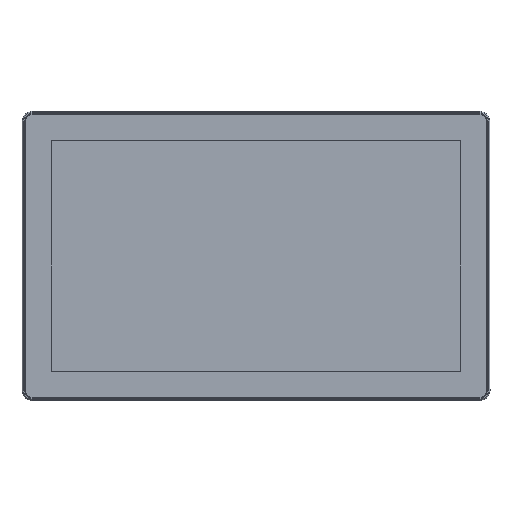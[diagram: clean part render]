
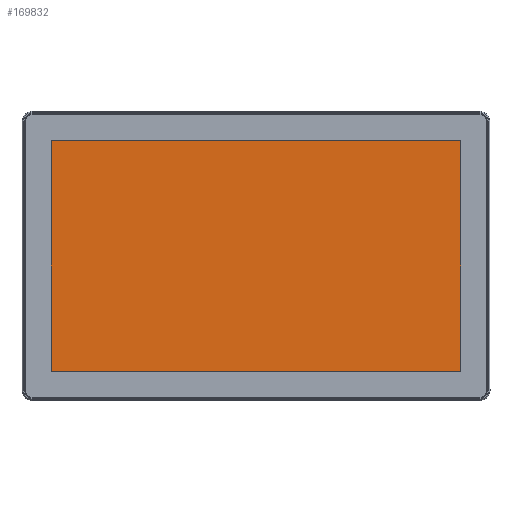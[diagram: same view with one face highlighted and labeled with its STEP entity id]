
A CAD part, top view. The second image highlights one B-rep face of the part: STEP entity #169832.
In plain terms, the highlighted planar face has unit normal (0, 0, 1).
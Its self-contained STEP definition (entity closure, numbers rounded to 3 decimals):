
#5460=PLANE('',#179848);
#18239=LINE('',#280441,#34975);
#18243=LINE('',#280449,#34979);
#18246=LINE('',#280455,#34982);
#18249=LINE('',#280460,#34985);
#34975=VECTOR('',#210083,10.);
#34979=VECTOR('',#210089,10.);
#34982=VECTOR('',#210094,10.);
#34985=VECTOR('',#210099,10.);
#48147=FACE_OUTER_BOUND('',#56942,.T.);
#56942=EDGE_LOOP('',(#138654,#138655,#138656,#138657));
#77885=VERTEX_POINT('',#280439);
#77886=VERTEX_POINT('',#280440);
#77889=VERTEX_POINT('',#280448);
#77891=VERTEX_POINT('',#280454);
#99510=EDGE_CURVE('',#77885,#77886,#18239,.T.);
#99514=EDGE_CURVE('',#77886,#77889,#18243,.T.);
#99517=EDGE_CURVE('',#77889,#77891,#18246,.T.);
#99520=EDGE_CURVE('',#77891,#77885,#18249,.T.);
#138654=ORIENTED_EDGE('',*,*,#99510,.T.);
#138655=ORIENTED_EDGE('',*,*,#99514,.T.);
#138656=ORIENTED_EDGE('',*,*,#99517,.T.);
#138657=ORIENTED_EDGE('',*,*,#99520,.T.);
#169832=ADVANCED_FACE('',(#48147),#5460,.T.);
#179848=AXIS2_PLACEMENT_3D('',#280462,#210101,#210102);
#210083=DIRECTION('',(0.,-1.,0.));
#210089=DIRECTION('',(1.,0.,0.));
#210094=DIRECTION('',(0.,1.,0.));
#210099=DIRECTION('',(-1.,0.,0.));
#210101=DIRECTION('center_axis',(0.,0.,
1.));
#210102=DIRECTION('ref_axis',(1.,0.,0.));
#280439=CARTESIAN_POINT('',(-238.4,134.15,1.091));
#280440=CARTESIAN_POINT('',(-238.4,-134.15,1.091));
#280441=CARTESIAN_POINT('',(-238.4,-134.15,1.091));
#280448=CARTESIAN_POINT('',(238.4,-134.15,1.091));
#280449=CARTESIAN_POINT('',(238.4,-134.15,1.091));
#280454=CARTESIAN_POINT('',(238.4,134.15,1.091));
#280455=CARTESIAN_POINT('',(238.4,134.15,1.091));
#280460=CARTESIAN_POINT('',(-238.4,134.15,1.091));
#280462=CARTESIAN_POINT('Origin',(0.,0.,
1.091));
